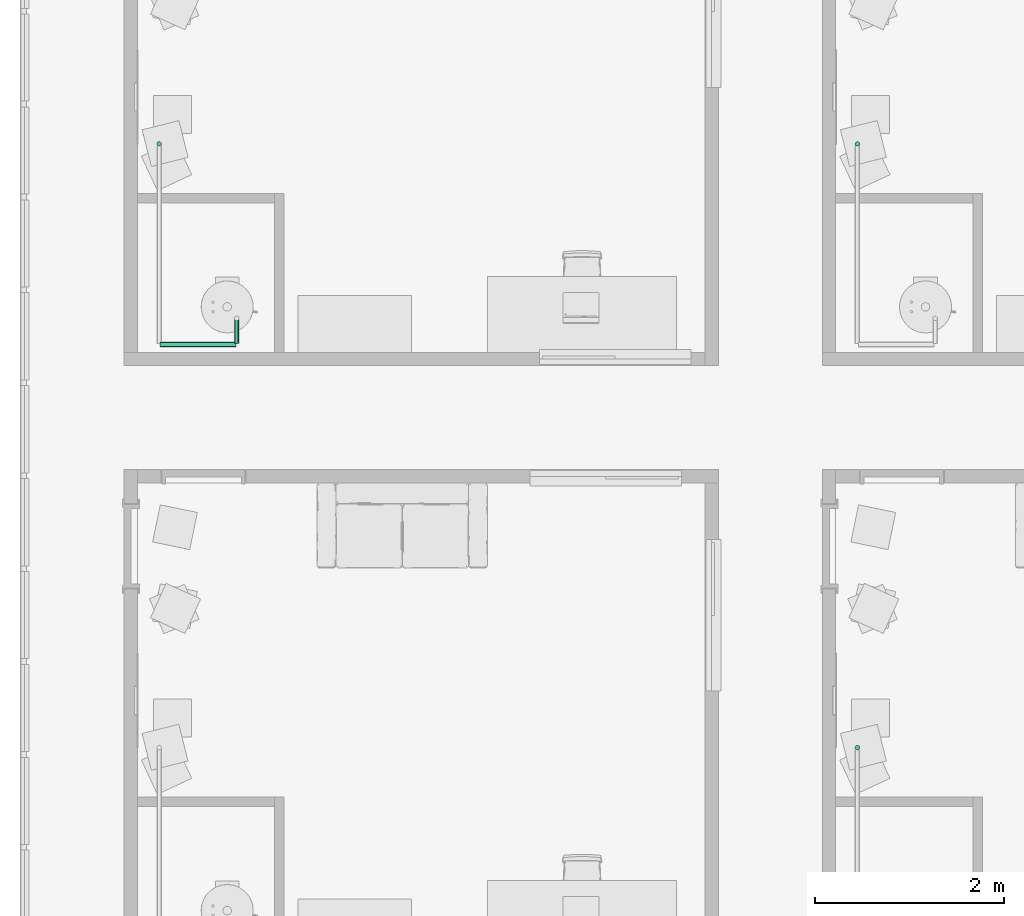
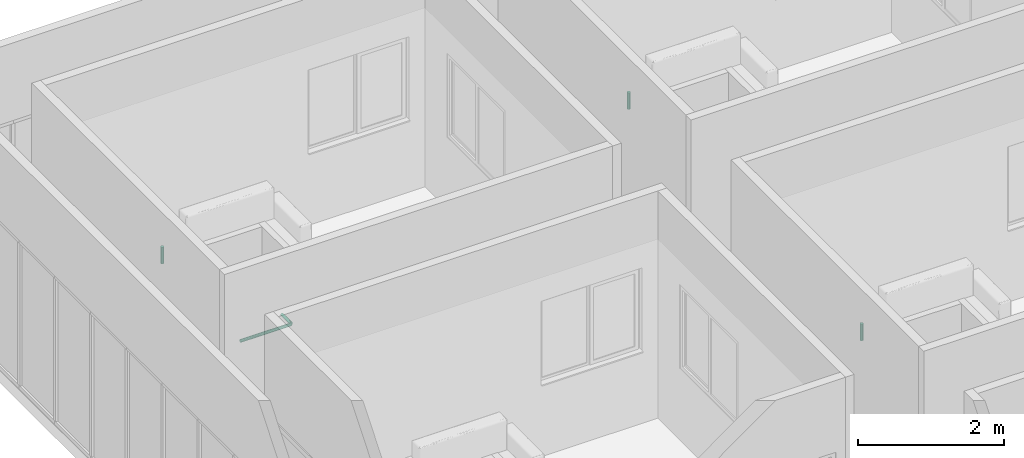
# One storey, part 48 of 72: 5 pipe segments.
"""IFC4 building model written with IfcOpenShell, lengths in centimetres."""

from ifc_helpers import new_model, entity, si_unit, converted_unit, derived_unit, direction, frame, origin, place, context, subcontext, project, spatial, arc, indexed_curve, outline, extrude, type_object, element, save


model = new_model("IFC4")

# Units and contexts
model_context = context("Model", 3, precision=0.001, world=origin(), true_north=direction((6.123233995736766e-17, 1.0)))
body_context = subcontext(model_context, "Body", "Model", "MODEL_VIEW")
ifc_project = project(units=[si_unit("LENGTHUNIT", "METRE", prefix="CENTI"), si_unit("AREAUNIT", "SQUARE_METRE"), si_unit("VOLUMEUNIT", "CUBIC_METRE"), derived_unit("THERMALTRANSMITTANCEUNIT", [(si_unit("MASSUNIT", "GRAM", prefix="KILO"), 1), (si_unit("THERMODYNAMICTEMPERATUREUNIT", "KELVIN"), -1), (si_unit("TIMEUNIT", "SECOND"), -3)]), converted_unit("PLANEANGLEUNIT", "DEGREE", entity("IfcPlaneAngleMeasure", 0.017453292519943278), si_unit("PLANEANGLEUNIT", "RADIAN"), dimensions=[0, 0, 0, 0, 0, 0, 0]), derived_unit("MASSDENSITYUNIT", [(si_unit("MASSUNIT", "GRAM", prefix="KILO"), 1), (si_unit("LENGTHUNIT", "METRE"), -3)]), derived_unit("VAPORPERMEABILITYUNIT", [(si_unit("LENGTHUNIT", "METRE"), -1), (si_unit("TIMEUNIT", "SECOND"), 1)]), derived_unit("USERDEFINED", [(si_unit("MASSUNIT", "GRAM", prefix="KILO"), 1), (si_unit("TIMEUNIT", "SECOND"), -3), (si_unit("LENGTHUNIT", "METRE"), 3), (si_unit("ELECTRICCURRENTUNIT", "AMPERE"), -2)]), derived_unit("SPECIFICHEATCAPACITYUNIT", [(si_unit("THERMODYNAMICTEMPERATUREUNIT", "KELVIN"), -1), (si_unit("LENGTHUNIT", "METRE"), 2), (si_unit("TIMEUNIT", "SECOND"), -2)]), derived_unit("THERMALCONDUCTANCEUNIT", [(si_unit("MASSUNIT", "GRAM", prefix="KILO"), 1), (si_unit("THERMODYNAMICTEMPERATUREUNIT", "KELVIN"), -1), (si_unit("TIMEUNIT", "SECOND"), -3), (si_unit("LENGTHUNIT", "METRE"), 1)]), si_unit("PRESSUREUNIT", "PASCAL"), derived_unit("MODULUSOFELASTICITYUNIT", [(si_unit("MASSUNIT", "GRAM", prefix="KILO"), 1), (si_unit("LENGTHUNIT", "METRE"), -1), (si_unit("TIMEUNIT", "SECOND"), -2)]), derived_unit("THERMALEXPANSIONCOEFFICIENTUNIT", [(si_unit("THERMODYNAMICTEMPERATUREUNIT", "KELVIN"), -1)])], contexts=[model_context])

# Site, building, storey
site_placement = place(None, origin())
site = spatial("IfcSite", under=ifc_project, at=site_placement, Name="Default", CompositionType="ELEMENT")
building_placement = place(site_placement, origin())
building = spatial("IfcBuilding", under=site, at=building_placement, Name="IDS Escape Game Building", CompositionType="ELEMENT")
storey_placement = place(building_placement, frame((0.0, 0.0, 800.0)))
storey = spatial("IfcBuildingStorey", under=building, at=storey_placement, Name="02_Second Floor", CompositionType="ELEMENT", Elevation=800.0)

# Pipe segments
pipe_segment_type = type_object("IfcPipeSegmentType", Name="Pipe Types:Piping Aluminum", PredefinedType="NOTDEFINED")
pipe_segment_1_placement = place(storey_placement, origin())
element("IfcPipeSegment", 1, at=pipe_segment_1_placement, inside=storey, type_object=pipe_segment_type, Name="Pipe Types:Piping Aluminum", ObjectType="Pipe Types:Piping Aluminum", PredefinedType="NOTDEFINED", context=body_context, shape_type="SweptSolid", body=[
    extrude(outline(indexed_curve([(2.412999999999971, -4.331468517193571e-13), (1.7062486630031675, 1.7062486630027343), (0.0, 2.412999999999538), (-1.7062486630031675, 1.7062486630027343), (-2.412999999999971, -4.331468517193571e-13), (-1.7062486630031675, -1.7062486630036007), (0.0, -2.4130000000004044), (1.7062486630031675, -1.7062486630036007)], segments=[arc(1, 2, 3), arc(3, 4, 5), arc(5, 6, 7), arc(7, 8, 1)], self_intersect=False)), frame((768.0467168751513, 2147.2648279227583, 244.09999999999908), z_axis=(0.0, 0.0, 1.0), x_axis=(-1.0, 0.0, 0.0)), (0.0, 0.0, 1.0), 27.90000000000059),
])
pipe_segment_2_placement = place(storey_placement, origin())
element("IfcPipeSegment", 2, at=pipe_segment_2_placement, inside=storey, type_object=pipe_segment_type, Name="Pipe Types:Piping Aluminum", ObjectType="Pipe Types:Piping Aluminum", PredefinedType="NOTDEFINED", context=body_context, shape_type="SweptSolid", body=[
    extrude(outline(indexed_curve([(2.412999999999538, -2.165734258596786e-13), (1.7062486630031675, 1.7062486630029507), (4.331468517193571e-13, 2.4130000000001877), (-1.7062486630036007, 1.7062486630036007), (-2.4130000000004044, -2.165734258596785e-13), (-1.7062486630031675, -1.706248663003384), (4.3314685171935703e-13, -2.4129999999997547), (1.7062486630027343, -1.7062486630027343)], segments=[arc(1, 2, 3), arc(3, 4, 5), arc(5, 6, 7), arc(7, 8, 1)], self_intersect=False)), frame((31.14671687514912, 2573.2648279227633, 242.0), z_axis=(1.0, 0.0, 0.0), x_axis=(0.0, 1.0, 0.0)), (0.0, 0.0, 1.0), 79.9032831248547),
])
pipe_segment_3_placement = place(storey_placement, origin())
element("IfcPipeSegment", 3, at=pipe_segment_3_placement, inside=storey, type_object=pipe_segment_type, Name="Pipe Types:Piping Aluminum", ObjectType="Pipe Types:Piping Aluminum", PredefinedType="NOTDEFINED", context=body_context, shape_type="SweptSolid", body=[
    extrude(outline(indexed_curve([(2.412999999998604, 0.0), (1.7062486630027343, 1.7062486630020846), (1.3941914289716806e-12, 2.412999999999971), (-1.7062486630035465, 1.7062486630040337), (-2.4130000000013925, 0.0), (-1.70624866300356, -1.7062486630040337), (1.3806555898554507e-12, -2.412999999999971), (1.7062486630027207, -1.7062486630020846)], segments=[arc(1, 2, 3), arc(3, 4, 5), arc(5, 6, 7), arc(7, 8, 1)], self_intersect=False)), frame((112.15000000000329, 2574.364827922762, 242.0), z_axis=(0.0, 1.0, 0.0), x_axis=(-1.0, 0.0, 0.0)), (0.0, 0.0, 1.0), 25.43517207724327),
])
pipe_segment_4_placement = place(storey_placement, origin())
element("IfcPipeSegment", 4, at=pipe_segment_4_placement, inside=storey, type_object=pipe_segment_type, Name="Pipe Types:Piping Aluminum", ObjectType="Pipe Types:Piping Aluminum", PredefinedType="NOTDEFINED", context=body_context, shape_type="SweptSolid", body=[
    extrude(outline(indexed_curve([(2.4130000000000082, -4.331468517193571e-13), (1.706248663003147, 1.7062486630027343), (-3.383959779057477e-15, 2.412999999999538), (-1.7062486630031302, 1.7062486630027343), (-2.412999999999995, -4.331468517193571e-13), (-1.7062486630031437, -1.7062486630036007), (-6.767919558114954e-15, -2.4130000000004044), (1.7062486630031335, -1.7062486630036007)], segments=[arc(1, 2, 3), arc(3, 4, 5), arc(5, 6, 7), arc(7, 8, 1)], self_intersect=False)), frame((30.046716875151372, 2785.2648279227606, 244.09999999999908), z_axis=(0.0, 0.0, 1.0), x_axis=(-1.0, 0.0, 0.0)), (0.0, 0.0, 1.0), 27.90000000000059),
])
pipe_segment_5_placement = place(storey_placement, origin())
element("IfcPipeSegment", 5, at=pipe_segment_5_placement, inside=storey, type_object=pipe_segment_type, Name="Pipe Types:Piping Aluminum", ObjectType="Pipe Types:Piping Aluminum", PredefinedType="NOTDEFINED", context=body_context, shape_type="SweptSolid", body=[
    extrude(outline(indexed_curve([(2.412999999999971, 0.0), (1.7062486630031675, 1.7062486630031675), (0.0, 2.412999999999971), (-1.7062486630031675, 1.7062486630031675), (-2.412999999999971, 0.0), (-1.7062486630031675, -1.7062486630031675), (0.0, -2.412999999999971), (1.7062486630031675, -1.7062486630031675)], segments=[arc(1, 2, 3), arc(3, 4, 5), arc(5, 6, 7), arc(7, 8, 1)], self_intersect=False)), frame((768.0467168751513, 2785.2648279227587, 244.09999999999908), z_axis=(0.0, 0.0, 1.0), x_axis=(-1.0, 0.0, 0.0)), (0.0, 0.0, 1.0), 27.90000000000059),
])

save(model, "model.ifc")
